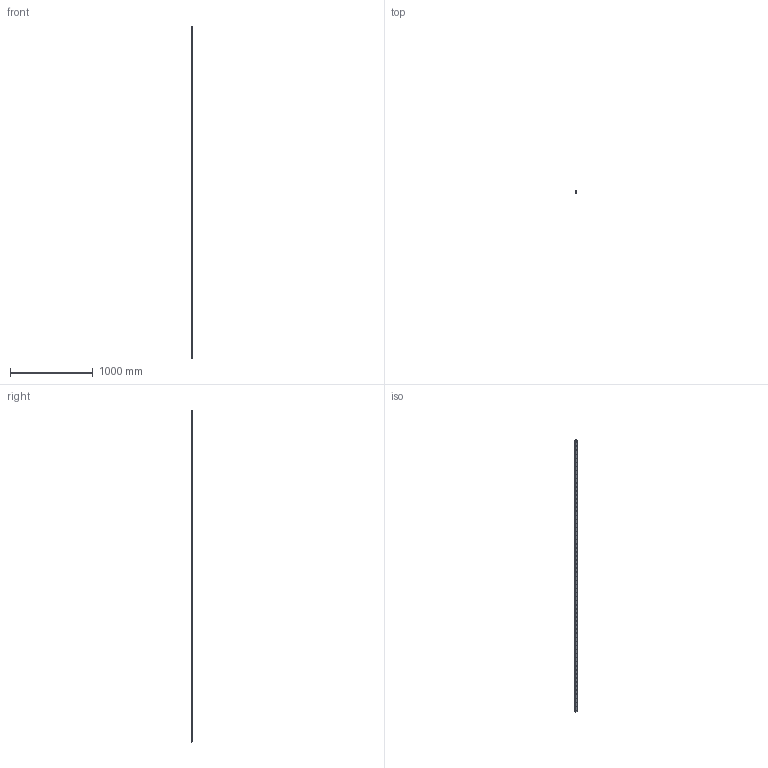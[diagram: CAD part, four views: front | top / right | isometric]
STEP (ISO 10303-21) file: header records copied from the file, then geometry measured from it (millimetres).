
FILE_DESCRIPTION (( 'STEP AP214' ), '1' );
FILE_NAME ('R25-4000.STEP', '2019-05-31T07:38:31', ( '' ), ( '' ), 'SwSTEP 2.0', 'SolidWorks 2016', '' );
FILE_SCHEMA (( 'AUTOMOTIVE_DESIGN' ));
Length unit declared in the file: millimetre
Products named in the file (1): R25-4000
Bounding box: 23 x 22 x 4000 mm (x, y, z)
Volume: 1714658.1 mm3; surface area: 405436.3 mm2
Topology: 1 solids, 1 shells, 361 faces, 876 edges, 584 vertices
Faces by surface type: cylinder 274, plane 87
Entity records: 15151 total; most frequent: DIRECTION 2148, CARTESIAN_POINT 1822, ORIENTED_EDGE 1752, AXIS2_PLACEMENT_3D 910, EDGE_CURVE 876, VERTEX_POINT 584, EDGE_LOOP 562, CIRCLE 548
